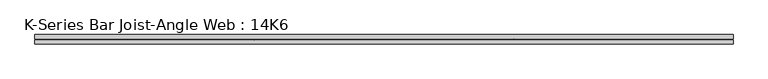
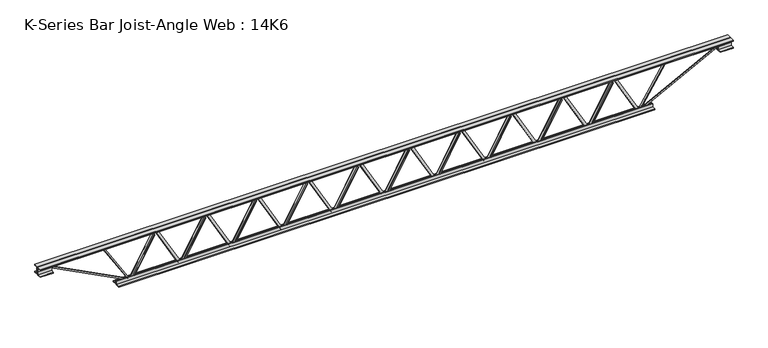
"""IFC4 building model written with IfcOpenShell, lengths in millimetres: beam geometry, K-Series Bar Joist-Angle Web : 14K6."""

from ifc_helpers import new_model, si_unit, frame, origin, place, context, project, spatial, polyline, outline, extrude, faceted_brep, source, transform, mapped, element, save


def k_series_bar_joist_angle_web_14k6_18eea027(model_context):
    return source(origin(), model_context, "Body", "SolidModel", [
        extrude(outline(polyline([(-4.7625, 4.7625), (-4.7625, 0.0), (-17.4625, 0.0), (-17.4625, 4.7625), (-4.7625, 4.7625)])), frame((1551.5396044, 0.0, -139.7), z_axis=(-0.4891459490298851, 0.0, 0.8722019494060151), x_axis=(0.0, -1.0, 0.0)), (0.0, 0.0, 1.0), 320.3386557),
        extrude(outline(polyline([(-174.625, 1583.055), (-155.575, 1583.055), (-155.575, 1582.2838511), (174.625, 1397.1019761), (174.625, 1378.823125), (155.575, 1378.823125), (155.575, 1385.9442739), (-174.625, 1571.1261489), (-174.625, 1583.055)])), frame((0.0, 0.0, 0.0), z_axis=(0.0, 1.0, 0.0), x_axis=(0.0, 0.0, 1.0)), (0.0, 0.0, 1.0), 4.7625),
        faceted_brep([(1187.29125, 0.0, -155.575), (1187.29125, 0.0, -174.625), (1187.29125, -4.7625, -174.625), (1187.29125, -4.7625, -155.575), (1188.0623989, 0.0, -155.575), (1373.2442739, 0.0, 174.625), (1391.523125, 0.0, 174.625), (1391.523125, 0.0, 155.575), (1384.4019761, 0.0, 155.575), (1199.2201011, 0.0, -174.625), (1199.2201011, -4.7625, -174.625), (1218.8066456, -4.7625, -139.7), (1214.6527838, -4.7625, -137.3704424), (1371.3451396, -4.7625, 142.0295576), (1375.4990014, -4.7625, 139.7), (1384.4019761, -4.7625, 155.575), (1391.523125, -4.7625, 155.575), (1391.523125, -4.7625, 174.625), (1373.2442739, -4.7625, 174.625), (1188.0623989, -4.7625, -155.575), (1375.4990014, -17.4625, 139.7), (1218.8066456, -17.4625, -139.7), (1214.6527838, -17.4625, -137.3704424), (1371.3451396, -17.4625, 142.0295576)], [[[0, 1, 2, 3]], [[1, 0, 4, 5, 6, 7, 8, 9]], [[2, 1, 9, 10]], [[3, 2, 10, 11, 12, 13, 14, 15, 16, 17, 18, 19]], [[0, 3, 19, 4]], [[9, 8, 15, 14, 20, 21, 11, 10]], [[5, 4, 19, 18]], [[7, 6, 17, 16]], [[8, 7, 16, 15]], [[6, 5, 18, 17]], [[21, 22, 12, 11]], [[20, 14, 13, 23]], [[22, 21, 20, 23]], [[12, 22, 23, 13]]]),
        extrude(outline(polyline([(-4.7625, 4.7625), (-4.7625, 0.0), (-17.4625, 0.0), (-17.4625, 4.7625), (-4.7625, 4.7625)])), frame((1155.7758544, 0.0, -139.7), z_axis=(-0.4891459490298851, 0.0, 0.8722019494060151), x_axis=(0.0, -1.0, 0.0)), (0.0, 0.0, 1.0), 320.3386557),
        extrude(outline(polyline([(-174.625, 1187.29125), (-155.575, 1187.29125), (-155.575, 1186.5201011), (174.625, 1001.3382261), (174.625, 983.059375), (155.575, 983.059375), (155.575, 990.1805239), (-174.625, 1175.3623989), (-174.625, 1187.29125)])), frame((0.0, 0.0, 0.0), z_axis=(0.0, 1.0, 0.0), x_axis=(0.0, 0.0, 1.0)), (0.0, 0.0, 1.0), 4.7625),
        faceted_brep([(791.5275, 0.0, -155.575), (791.5275, 0.0, -174.625), (791.5275, -4.7625, -174.625), (791.5275, -4.7625, -155.575), (792.2986489, 0.0, -155.575), (977.4805239, 0.0, 174.625), (995.759375, 0.0, 174.625), (995.759375, 0.0, 155.575), (988.6382261, 0.0, 155.575), (803.4563511, 0.0, -174.625), (803.4563511, -4.7625, -174.625), (823.0428956, -4.7625, -139.7), (818.8890338, -4.7625, -137.3704424), (975.5813896, -4.7625, 142.0295576), (979.7352514, -4.7625, 139.7), (988.6382261, -4.7625, 155.575), (995.759375, -4.7625, 155.575), (995.759375, -4.7625, 174.625), (977.4805239, -4.7625, 174.625), (792.2986489, -4.7625, -155.575), (979.7352514, -17.4625, 139.7), (823.0428956, -17.4625, -139.7), (818.8890338, -17.4625, -137.3704424), (975.5813896, -17.4625, 142.0295576)], [[[0, 1, 2, 3]], [[1, 0, 4, 5, 6, 7, 8, 9]], [[2, 1, 9, 10]], [[3, 2, 10, 11, 12, 13, 14, 15, 16, 17, 18, 19]], [[0, 3, 19, 4]], [[9, 8, 15, 14, 20, 21, 11, 10]], [[5, 4, 19, 18]], [[7, 6, 17, 16]], [[8, 7, 16, 15]], [[6, 5, 18, 17]], [[21, 22, 12, 11]], [[20, 14, 13, 23]], [[22, 21, 20, 23]], [[12, 22, 23, 13]]]),
        extrude(outline(polyline([(-4.7625, 4.7625), (-4.7625, 0.0), (-17.4625, 0.0), (-17.4625, 4.7625), (-4.7625, 4.7625)])), frame((760.0121044, 0.0, -139.7), z_axis=(-0.4891459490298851, 0.0, 0.8722019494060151), x_axis=(0.0, -1.0, 0.0)), (0.0, 0.0, 1.0), 320.3386557),
        extrude(outline(polyline([(-174.625, 791.5275), (-155.575, 791.5275), (-155.575, 790.7563511), (174.625, 605.5744761), (174.625, 587.295625), (155.575, 587.295625), (155.575, 594.4167739), (-174.625, 779.5986489), (-174.625, 791.5275)])), frame((0.0, 0.0, 0.0), z_axis=(0.0, 1.0, 0.0), x_axis=(0.0, 0.0, 1.0)), (0.0, 0.0, 1.0), 4.7625),
        faceted_brep([(395.76375, 0.0, -155.575), (395.76375, 0.0, -174.625), (395.76375, -4.7625, -174.625), (395.76375, -4.7625, -155.575), (396.5348989, 0.0, -155.575), (581.7167739, 0.0, 174.625), (599.995625, 0.0, 174.625), (599.995625, 0.0, 155.575), (592.8744761, 0.0, 155.575), (407.6926011, 0.0, -174.625), (407.6926011, -4.7625, -174.625), (427.2791456, -4.7625, -139.7), (423.1252838, -4.7625, -137.3704424), (579.8176396, -4.7625, 142.0295576), (583.9715014, -4.7625, 139.7), (592.8744761, -4.7625, 155.575), (599.995625, -4.7625, 155.575), (599.995625, -4.7625, 174.625), (581.7167739, -4.7625, 174.625), (396.5348989, -4.7625, -155.575), (583.9715014, -17.4625, 139.7), (427.2791456, -17.4625, -139.7), (423.1252838, -17.4625, -137.3704424), (579.8176396, -17.4625, 142.0295576)], [[[0, 1, 2, 3]], [[1, 0, 4, 5, 6, 7, 8, 9]], [[2, 1, 9, 10]], [[3, 2, 10, 11, 12, 13, 14, 15, 16, 17, 18, 19]], [[0, 3, 19, 4]], [[9, 8, 15, 14, 20, 21, 11, 10]], [[5, 4, 19, 18]], [[7, 6, 17, 16]], [[8, 7, 16, 15]], [[6, 5, 18, 17]], [[21, 22, 12, 11]], [[20, 14, 13, 23]], [[22, 21, 20, 23]], [[12, 22, 23, 13]]]),
        extrude(outline(polyline([(-4.7625, 4.7625), (-4.7625, 0.0), (-17.4625, 0.0), (-17.4625, 4.7625), (-4.7625, 4.7625)])), frame((364.2483544, 0.0, -139.7), z_axis=(-0.4891459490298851, 0.0, 0.8722019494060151), x_axis=(0.0, -1.0, 0.0)), (0.0, 0.0, 1.0), 320.3386557),
        extrude(outline(polyline([(-174.625, 395.76375), (-155.575, 395.76375), (-155.575, 394.9926011), (174.625, 209.8107261), (174.625, 191.531875), (155.575, 191.531875), (155.575, 198.6530239), (-174.625, 383.8348989), (-174.625, 395.76375)])), frame((0.0, 0.0, 0.0), z_axis=(0.0, 1.0, 0.0), x_axis=(0.0, 0.0, 1.0)), (0.0, 0.0, 1.0), 4.7625),
        faceted_brep([(0.0, 0.0, -155.575), (0.0, 0.0, -174.625), (0.0, -4.7625, -174.625), (0.0, -4.7625, -155.575), (0.7711489, 0.0, -155.575), (185.9530239, 0.0, 174.625), (204.231875, 0.0, 174.625), (204.231875, 0.0, 155.575), (197.1107261, 0.0, 155.575), (11.9288511, 0.0, -174.625), (11.9288511, -4.7625, -174.625), (31.5153956, -4.7625, -139.7), (27.3615338, -4.7625, -137.3704424), (184.0538896, -4.7625, 142.0295576), (188.2077514, -4.7625, 139.7), (197.1107261, -4.7625, 155.575), (204.231875, -4.7625, 155.575), (204.231875, -4.7625, 174.625), (185.9530239, -4.7625, 174.625), (0.7711489, -4.7625, -155.575), (188.2077514, -17.4625, 139.7), (31.5153956, -17.4625, -139.7), (27.3615338, -17.4625, -137.3704424), (184.0538896, -17.4625, 142.0295576)], [[[0, 1, 2, 3]], [[1, 0, 4, 5, 6, 7, 8, 9]], [[2, 1, 9, 10]], [[3, 2, 10, 11, 12, 13, 14, 15, 16, 17, 18, 19]], [[0, 3, 19, 4]], [[9, 8, 15, 14, 20, 21, 11, 10]], [[5, 4, 19, 18]], [[7, 6, 17, 16]], [[8, 7, 16, 15]], [[6, 5, 18, 17]], [[21, 22, 12, 11]], [[20, 14, 13, 23]], [[22, 21, 20, 23]], [[12, 22, 23, 13]]]),
        extrude(outline(polyline([(-4.7625, 4.7625), (-4.7625, 0.0), (-17.4625, 0.0), (-17.4625, 4.7625), (-4.7625, 4.7625)])), frame((-31.5153956, 0.0, -139.7), z_axis=(-0.4891459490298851, 0.0, 0.8722019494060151), x_axis=(0.0, -1.0, 0.0)), (0.0, 0.0, 1.0), 320.3386557),
        extrude(outline(polyline([(-174.625, 0.0), (-155.575, 0.0), (-155.575, -0.7711489), (174.625, -185.9530239), (174.625, -204.231875), (155.575, -204.231875), (155.575, -197.1107261), (-174.625, -11.9288511), (-174.625, 0.0)])), frame((0.0, 0.0, 0.0), z_axis=(0.0, 1.0, 0.0), x_axis=(0.0, 0.0, 1.0)), (0.0, 0.0, 1.0), 4.7625),
        faceted_brep([(-395.76375, 0.0, -155.575), (-395.76375, 0.0, -174.625), (-395.76375, -4.7625, -174.625), (-395.76375, -4.7625, -155.575), (-394.9926011, 0.0, -155.575), (-209.8107261, 0.0, 174.625), (-191.531875, 0.0, 174.625), (-191.531875, 0.0, 155.575), (-198.6530239, 0.0, 155.575), (-383.8348989, 0.0, -174.625), (-383.8348989, -4.7625, -174.625), (-364.2483544, -4.7625, -139.7), (-368.4022162, -4.7625, -137.3704424), (-211.7098604, -4.7625, 142.0295576), (-207.5559986, -4.7625, 139.7), (-198.6530239, -4.7625, 155.575), (-191.531875, -4.7625, 155.575), (-191.531875, -4.7625, 174.625), (-209.8107261, -4.7625, 174.625), (-394.9926011, -4.7625, -155.575), (-207.5559986, -17.4625, 139.7), (-364.2483544, -17.4625, -139.7), (-368.4022162, -17.4625, -137.3704424), (-211.7098604, -17.4625, 142.0295576)], [[[0, 1, 2, 3]], [[1, 0, 4, 5, 6, 7, 8, 9]], [[2, 1, 9, 10]], [[3, 2, 10, 11, 12, 13, 14, 15, 16, 17, 18, 19]], [[0, 3, 19, 4]], [[9, 8, 15, 14, 20, 21, 11, 10]], [[5, 4, 19, 18]], [[7, 6, 17, 16]], [[8, 7, 16, 15]], [[6, 5, 18, 17]], [[21, 22, 12, 11]], [[20, 14, 13, 23]], [[22, 21, 20, 23]], [[12, 22, 23, 13]]]),
        extrude(outline(polyline([(-4.7625, 4.7625), (-4.7625, 0.0), (-17.4625, 0.0), (-17.4625, 4.7625), (-4.7625, 4.7625)])), frame((-427.2791456, 0.0, -139.7), z_axis=(-0.4891459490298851, 0.0, 0.8722019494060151), x_axis=(0.0, -1.0, 0.0)), (0.0, 0.0, 1.0), 320.3386557),
        extrude(outline(polyline([(-174.625, -395.76375), (-155.575, -395.76375), (-155.575, -396.5348989), (174.625, -581.7167739), (174.625, -599.995625), (155.575, -599.995625), (155.575, -592.8744761), (-174.625, -407.6926011), (-174.625, -395.76375)])), frame((0.0, 0.0, 0.0), z_axis=(0.0, 1.0, 0.0), x_axis=(0.0, 0.0, 1.0)), (0.0, 0.0, 1.0), 4.7625),
        faceted_brep([(-791.5275, 0.0, -155.575), (-791.5275, 0.0, -174.625), (-791.5275, -4.7625, -174.625), (-791.5275, -4.7625, -155.575), (-790.7563511, 0.0, -155.575), (-605.5744761, 0.0, 174.625), (-587.295625, 0.0, 174.625), (-587.295625, 0.0, 155.575), (-594.4167739, 0.0, 155.575), (-779.5986489, 0.0, -174.625), (-779.5986489, -4.7625, -174.625), (-760.0121044, -4.7625, -139.7), (-764.1659662, -4.7625, -137.3704424), (-607.4736104, -4.7625, 142.0295576), (-603.3197486, -4.7625, 139.7), (-594.4167739, -4.7625, 155.575), (-587.295625, -4.7625, 155.575), (-587.295625, -4.7625, 174.625), (-605.5744761, -4.7625, 174.625), (-790.7563511, -4.7625, -155.575), (-603.3197486, -17.4625, 139.7), (-760.0121044, -17.4625, -139.7), (-764.1659662, -17.4625, -137.3704424), (-607.4736104, -17.4625, 142.0295576)], [[[0, 1, 2, 3]], [[1, 0, 4, 5, 6, 7, 8, 9]], [[2, 1, 9, 10]], [[3, 2, 10, 11, 12, 13, 14, 15, 16, 17, 18, 19]], [[0, 3, 19, 4]], [[9, 8, 15, 14, 20, 21, 11, 10]], [[5, 4, 19, 18]], [[7, 6, 17, 16]], [[8, 7, 16, 15]], [[6, 5, 18, 17]], [[21, 22, 12, 11]], [[20, 14, 13, 23]], [[22, 21, 20, 23]], [[12, 22, 23, 13]]]),
        extrude(outline(polyline([(-4.7625, 4.7625), (-4.7625, 0.0), (-17.4625, 0.0), (-17.4625, 4.7625), (-4.7625, 4.7625)])), frame((-823.0428956, 0.0, -139.7), z_axis=(-0.4891459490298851, 0.0, 0.8722019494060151), x_axis=(0.0, -1.0, 0.0)), (0.0, 0.0, 1.0), 320.3386557),
        extrude(outline(polyline([(-174.625, -791.5275), (-155.575, -791.5275), (-155.575, -792.2986489), (174.625, -977.4805239), (174.625, -995.759375), (155.575, -995.759375), (155.575, -988.6382261), (-174.625, -803.4563511), (-174.625, -791.5275)])), frame((0.0, 0.0, 0.0), z_axis=(0.0, 1.0, 0.0), x_axis=(0.0, 0.0, 1.0)), (0.0, 0.0, 1.0), 4.7625),
        faceted_brep([(-1187.29125, 0.0, -155.575), (-1187.29125, 0.0, -174.625), (-1187.29125, -4.7625, -174.625), (-1187.29125, -4.7625, -155.575), (-1186.5201011, 0.0, -155.575), (-1001.3382261, 0.0, 174.625), (-983.059375, 0.0, 174.625), (-983.059375, 0.0, 155.575), (-990.1805239, 0.0, 155.575), (-1175.3623989, 0.0, -174.625), (-1175.3623989, -4.7625, -174.625), (-1155.7758544, -4.7625, -139.7), (-1159.9297162, -4.7625, -137.3704424), (-1003.2373604, -4.7625, 142.0295576), (-999.0834986, -4.7625, 139.7), (-990.1805239, -4.7625, 155.575), (-983.059375, -4.7625, 155.575), (-983.059375, -4.7625, 174.625), (-1001.3382261, -4.7625, 174.625), (-1186.5201011, -4.7625, -155.575), (-999.0834986, -17.4625, 139.7), (-1155.7758544, -17.4625, -139.7), (-1159.9297162, -17.4625, -137.3704424), (-1003.2373604, -17.4625, 142.0295576)], [[[0, 1, 2, 3]], [[1, 0, 4, 5, 6, 7, 8, 9]], [[2, 1, 9, 10]], [[3, 2, 10, 11, 12, 13, 14, 15, 16, 17, 18, 19]], [[0, 3, 19, 4]], [[9, 8, 15, 14, 20, 21, 11, 10]], [[5, 4, 19, 18]], [[7, 6, 17, 16]], [[8, 7, 16, 15]], [[6, 5, 18, 17]], [[21, 22, 12, 11]], [[20, 14, 13, 23]], [[22, 21, 20, 23]], [[12, 22, 23, 13]]]),
        extrude(outline(polyline([(-4.7625, 4.7625), (-4.7625, 0.0), (-17.4625, 0.0), (-17.4625, 4.7625), (-4.7625, 4.7625)])), frame((-1218.8066456, 0.0, -139.7), z_axis=(-0.4891459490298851, 0.0, 0.8722019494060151), x_axis=(0.0, -1.0, 0.0)), (0.0, 0.0, 1.0), 320.3386557),
        extrude(outline(polyline([(-174.625, -1187.29125), (-155.575, -1187.29125), (-155.575, -1188.0623989), (174.625, -1373.2442739), (174.625, -1391.523125), (155.575, -1391.523125), (155.575, -1384.4019761), (-174.625, -1199.2201011), (-174.625, -1187.29125)])), frame((0.0, 0.0, 0.0), z_axis=(0.0, 1.0, 0.0), x_axis=(0.0, 0.0, 1.0)), (0.0, 0.0, 1.0), 4.7625),
        faceted_brep([(-1583.055, 0.0, -155.575), (-1583.055, 0.0, -174.625), (-1583.055, -4.7625, -174.625), (-1583.055, -4.7625, -155.575), (-1582.2838511, 0.0, -155.575), (-1397.1019761, 0.0, 174.625), (-1378.823125, 0.0, 174.625), (-1378.823125, 0.0, 155.575), (-1385.9442739, 0.0, 155.575), (-1571.1261489, 0.0, -174.625), (-1571.1261489, -4.7625, -174.625), (-1551.5396044, -4.7625, -139.7), (-1555.6934662, -4.7625, -137.3704424), (-1399.0011104, -4.7625, 142.0295576), (-1394.8472486, -4.7625, 139.7), (-1385.9442739, -4.7625, 155.575), (-1378.823125, -4.7625, 155.575), (-1378.823125, -4.7625, 174.625), (-1397.1019761, -4.7625, 174.625), (-1582.2838511, -4.7625, -155.575), (-1394.8472486, -17.4625, 139.7), (-1551.5396044, -17.4625, -139.7), (-1555.6934662, -17.4625, -137.3704424), (-1399.0011104, -17.4625, 142.0295576)], [[[0, 1, 2, 3]], [[1, 0, 4, 5, 6, 7, 8, 9]], [[2, 1, 9, 10]], [[3, 2, 10, 11, 12, 13, 14, 15, 16, 17, 18, 19]], [[0, 3, 19, 4]], [[9, 8, 15, 14, 20, 21, 11, 10]], [[5, 4, 19, 18]], [[7, 6, 17, 16]], [[8, 7, 16, 15]], [[6, 5, 18, 17]], [[21, 22, 12, 11]], [[20, 14, 13, 23]], [[22, 21, 20, 23]], [[12, 22, 23, 13]]]),
        extrude(outline(polyline([(-4.7625, 4.7625), (-4.7625, 0.0), (-17.4625, 0.0), (-17.4625, 4.7625), (-4.7625, 4.7625)])), frame((1947.3033544, 0.0, -139.7), z_axis=(-0.4891459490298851, 0.0, 0.8722019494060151), x_axis=(0.0, -1.0, 0.0)), (0.0, 0.0, 1.0), 320.3386557),
        extrude(outline(polyline([(-174.625, 1978.81875), (-155.575, 1978.81875), (-155.575, 1978.0476011), (174.625, 1792.8657261), (174.625, 1774.586875), (155.575, 1774.586875), (155.575, 1781.7080239), (-174.625, 1966.8898989), (-174.625, 1978.81875)])), frame((0.0, 0.0, 0.0), z_axis=(0.0, 1.0, 0.0), x_axis=(0.0, 0.0, 1.0)), (0.0, 0.0, 1.0), 4.7625),
        faceted_brep([(1583.055, 0.0, -155.575), (1583.055, 0.0, -174.625), (1583.055, -4.7625, -174.625), (1583.055, -4.7625, -155.575), (1583.8261489, 0.0, -155.575), (1769.0080239, 0.0, 174.625), (1787.286875, 0.0, 174.625), (1787.286875, 0.0, 155.575), (1780.1657261, 0.0, 155.575), (1594.9838511, 0.0, -174.625), (1594.9838511, -4.7625, -174.625), (1614.5703956, -4.7625, -139.7), (1610.4165338, -4.7625, -137.3704424), (1767.1088896, -4.7625, 142.0295576), (1771.2627514, -4.7625, 139.7), (1780.1657261, -4.7625, 155.575), (1787.286875, -4.7625, 155.575), (1787.286875, -4.7625, 174.625), (1769.0080239, -4.7625, 174.625), (1583.8261489, -4.7625, -155.575), (1771.2627514, -17.4625, 139.7), (1614.5703956, -17.4625, -139.7), (1610.4165338, -17.4625, -137.3704424), (1767.1088896, -17.4625, 142.0295576)], [[[0, 1, 2, 3]], [[1, 0, 4, 5, 6, 7, 8, 9]], [[2, 1, 9, 10]], [[3, 2, 10, 11, 12, 13, 14, 15, 16, 17, 18, 19]], [[0, 3, 19, 4]], [[9, 8, 15, 14, 20, 21, 11, 10]], [[5, 4, 19, 18]], [[7, 6, 17, 16]], [[8, 7, 16, 15]], [[6, 5, 18, 17]], [[21, 22, 12, 11]], [[20, 14, 13, 23]], [[22, 21, 20, 23]], [[12, 22, 23, 13]]]),
        extrude(outline(polyline([(-4.7625, 4.7625), (-4.7625, 0.0), (-17.4625, 0.0), (-17.4625, 4.7625), (-4.7625, 4.7625)])), frame((-1614.5703956, 0.0, -139.7), z_axis=(-0.4891459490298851, 0.0, 0.8722019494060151), x_axis=(0.0, -1.0, 0.0)), (0.0, 0.0, 1.0), 320.3386557),
        extrude(outline(polyline([(-174.625, -1583.055), (-155.575, -1583.055), (-155.575, -1583.8261489), (174.625, -1769.0080239), (174.625, -1787.286875), (155.575, -1787.286875), (155.575, -1780.1657261), (-174.625, -1594.9838511), (-174.625, -1583.055)])), frame((0.0, 0.0, 0.0), z_axis=(0.0, 1.0, 0.0), x_axis=(0.0, 0.0, 1.0)), (0.0, 0.0, 1.0), 4.7625),
        faceted_brep([(-1978.81875, 0.0, -155.575), (-1978.81875, 0.0, -174.625), (-1978.81875, -4.7625, -174.625), (-1978.81875, -4.7625, -155.575), (-1978.0476011, 0.0, -155.575), (-1792.8657261, 0.0, 174.625), (-1774.586875, 0.0, 174.625), (-1774.586875, 0.0, 155.575), (-1781.7080239, 0.0, 155.575), (-1966.8898989, 0.0, -174.625), (-1966.8898989, -4.7625, -174.625), (-1947.3033544, -4.7625, -139.7), (-1951.4572162, -4.7625, -137.3704424), (-1794.7648604, -4.7625, 142.0295576), (-1790.6109986, -4.7625, 139.7), (-1781.7080239, -4.7625, 155.575), (-1774.586875, -4.7625, 155.575), (-1774.586875, -4.7625, 174.625), (-1792.8657261, -4.7625, 174.625), (-1978.0476011, -4.7625, -155.575), (-1790.6109986, -17.4625, 139.7), (-1947.3033544, -17.4625, -139.7), (-1951.4572162, -17.4625, -137.3704424), (-1794.7648604, -17.4625, 142.0295576)], [[[0, 1, 2, 3]], [[1, 0, 4, 5, 6, 7, 8, 9]], [[2, 1, 9, 10]], [[3, 2, 10, 11, 12, 13, 14, 15, 16, 17, 18, 19]], [[0, 3, 19, 4]], [[9, 8, 15, 14, 20, 21, 11, 10]], [[5, 4, 19, 18]], [[7, 6, 17, 16]], [[8, 7, 16, 15]], [[6, 5, 18, 17]], [[21, 22, 12, 11]], [[20, 14, 13, 23]], [[22, 21, 20, 23]], [[12, 22, 23, 13]]]),
        extrude(outline(polyline([(4.7625, 177.8), (36.5125, 177.8), (36.5125, 171.45), (11.1125, 171.45), (11.1125, 146.05), (4.7625, 146.05), (4.7625, 177.8)])), frame((-2690.01875, 0.0, 0.0), z_axis=(1.0, 0.0, 0.0), x_axis=(0.0, 1.0, 0.0)), (0.0, 0.0, 1.0), 5380.0375),
        extrude(outline(polyline([(-4.7625, 177.8), (-4.7625, 146.05), (-11.1125, 146.05), (-11.1125, 171.45), (-36.5125, 171.45), (-36.5125, 177.8), (-4.7625, 177.8)])), frame((-2690.01875, 0.0, 0.0), z_axis=(1.0, 0.0, 0.0), x_axis=(0.0, 1.0, 0.0)), (0.0, 0.0, 1.0), 5380.0375),
        extrude(outline(polyline([(4.7625, -177.8), (4.7625, -146.05), (11.1125, -146.05), (11.1125, -171.45), (36.5125, -171.45), (36.5125, -177.8), (4.7625, -177.8)])), frame((-2080.41875, 0.0, 0.0), z_axis=(1.0, 0.0, 0.0), x_axis=(0.0, 1.0, 0.0)), (0.0, 0.0, 1.0), 4160.8375),
        extrude(outline(polyline([(-4.7625, -177.8), (-36.5125, -177.8), (-36.5125, -171.45), (-11.1125, -171.45), (-11.1125, -146.05), (-4.7625, -146.05), (-4.7625, -177.8)])), frame((-2080.41875, 0.0, 0.0), z_axis=(1.0, 0.0, 0.0), x_axis=(0.0, 1.0, 0.0)), (0.0, 0.0, 1.0), 4160.8375),
        extrude(outline(polyline([(4.7625, 114.3), (4.7625, 146.05), (11.1125, 146.05), (11.1125, 120.65), (36.5125, 120.65), (36.5125, 114.3), (4.7625, 114.3)])), frame((2588.41875, 0.0, 0.0), z_axis=(1.0, 0.0, 0.0), x_axis=(0.0, 1.0, 0.0)), (0.0, 0.0, 1.0), 101.6),
        extrude(outline(polyline([(-4.7625, 114.3), (-36.5125, 114.3), (-36.5125, 120.65), (-11.1125, 120.65), (-11.1125, 146.05), (-4.7625, 146.05), (-4.7625, 114.3)])), frame((2588.41875, 0.0, 0.0), z_axis=(1.0, 0.0, 0.0), x_axis=(0.0, 1.0, 0.0)), (0.0, 0.0, 1.0), 101.6),
        extrude(outline(polyline([(-4.7625, 114.3), (-36.5125, 114.3), (-36.5125, 120.65), (-11.1125, 120.65), (-11.1125, 146.05), (-4.7625, 146.05), (-4.7625, 114.3)])), frame((-2690.01875, 0.0, 0.0), z_axis=(1.0, 0.0, 0.0), x_axis=(0.0, 1.0, 0.0)), (0.0, 0.0, 1.0), 101.6),
        extrude(outline(polyline([(36.5125, 114.3), (4.7625, 114.3), (4.7625, 146.05), (11.1125, 146.05), (11.1125, 120.65), (36.5125, 120.65), (36.5125, 114.3)])), frame((-2690.01875, 0.0, 0.0), z_axis=(1.0, 0.0, 0.0), x_axis=(0.0, 1.0, 0.0)), (0.0, 0.0, 1.0), 101.6),
        extrude(outline(polyline([(4.7625, 4.7625), (4.7625, -4.7625), (-4.7625, -4.7625), (-4.7625, 4.7625), (4.7625, 4.7625)])), frame((-1978.81875, 0.0, -171.45), z_axis=(-0.5289305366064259, 0.0, 0.848665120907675), x_axis=(0.0, -1.0, 0.0)), (0.0, 0.0, 1.0), 374.1169422),
        extrude(outline(polyline([(4.7625, 4.7625), (4.7625, -4.7625), (-4.7625, -4.7625), (-4.7625, 4.7625), (4.7625, 4.7625)])), frame((1978.81875, 0.0, -171.45), z_axis=(0.5289305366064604, 0.0, 0.8486651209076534), x_axis=(0.0, -1.0, 0.0)), (0.0, 0.0, 1.0), 374.1169422),
        extrude(outline(polyline([(0.0, -9.525), (0.0, 0.0), (687.3270037, 0.0), (687.3270037, -9.525), (0.0, -9.525)])), frame((-2590.6187127, 4.7625, 141.8260717), z_axis=(0.461934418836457, 0.0, 0.886914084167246), x_axis=(0.886914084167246, 0.0, -0.461934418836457)), (0.0, 0.0, 1.0), 9.525),
        extrude(outline(polyline([(0.0, -9.525), (0.0, 0.0), (687.3270037, 0.0), (687.3270037, -9.525), (0.0, -9.525)])), frame((2590.6187127, -4.7625, 141.8260717), z_axis=(-0.46193441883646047, 0.0, 0.8869140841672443), x_axis=(-0.8869140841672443, 0.0, -0.46193441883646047)), (0.0, 0.0, 1.0), 9.525),
    ])


if __name__ == "__main__":
    model = new_model("IFC4")
    model_context = context("Model", 3, world=origin())
    ifc_project = project(units=[si_unit("LENGTHUNIT", "METRE", prefix="MILLI")], contexts=[model_context])
    site = spatial("IfcSite", under=ifc_project)
    building = spatial("IfcBuilding", under=site)
    placement = place(None, origin())
    k_series_bar_joist_angle_web_14k6_shape = k_series_bar_joist_angle_web_14k6_18eea027(model_context)
    element("IfcBeam", 1, ObjectType="K-Series Bar Joist-Angle Web : 14K6", at=placement, inside=building, context=model_context, shape_type="MappedRepresentation", body=[
        mapped(k_series_bar_joist_angle_web_14k6_shape, transform((0.0, 0.0, 0.0), x_axis=(1.0, 0.0, 0.0), y_axis=(0.0, 1.0, 0.0), z_axis=(0.0, 0.0, 1.0))),
    ])
    save(model, "model.ifc")
